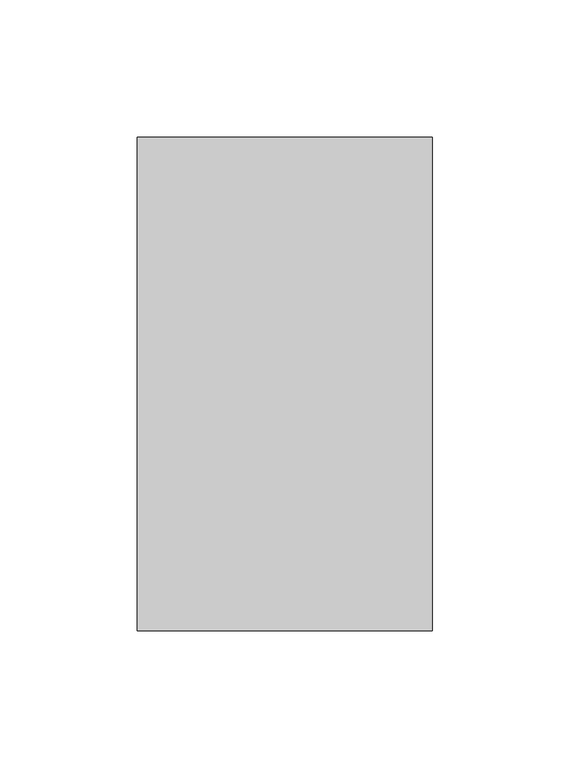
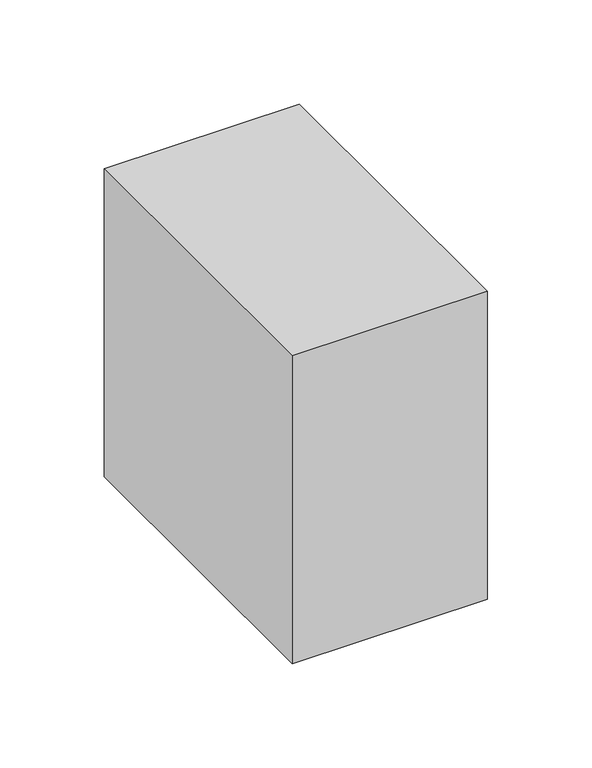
"""IFC4 building model written with IfcOpenShell, lengths in millimetres: duct fitting geometry, M_Encaixe de duto retangular : Padrão."""

from ifc_helpers import new_model, si_unit, frame, origin, place, context, project, spatial, polyline, outline, extrude, source, transform, mapped, element, save


def duct_fitting_bc26a891(model_context):
    return source(origin(), model_context, "Body", "SweptSolid", [
        extrude(outline(polyline([(-6.096, -90.0), (-6.096, 90.0), (101.6, 90.0), (101.6, -90.0), (-6.096, -90.0)])), frame((0.0, 0.0, -90.0), z_axis=(0.0, 0.0, 1.0), x_axis=(1.0, 0.0, 0.0)), (0.0, 0.0, 1.0), 180.0),
    ])


if __name__ == "__main__":
    model = new_model("IFC4")
    model_context = context("Model", 3, world=origin())
    ifc_project = project(units=[si_unit("LENGTHUNIT", "METRE", prefix="MILLI")], contexts=[model_context])
    site = spatial("IfcSite", under=ifc_project)
    building = spatial("IfcBuilding", under=site)
    placement = place(None, origin())
    duct_fitting_shape = duct_fitting_bc26a891(model_context)
    element("IfcDuctFitting", 1, ObjectType="M_Encaixe de duto retangular : Padrão", at=placement, inside=building, context=model_context, shape_type="MappedRepresentation", body=[
        mapped(duct_fitting_shape, transform((0.0, 0.0, 0.0), x_axis=(1.0, 0.0, 0.0), y_axis=(0.0, 1.0, 0.0), z_axis=(0.0, 0.0, 1.0))),
    ])
    save(model, "model.ifc")
